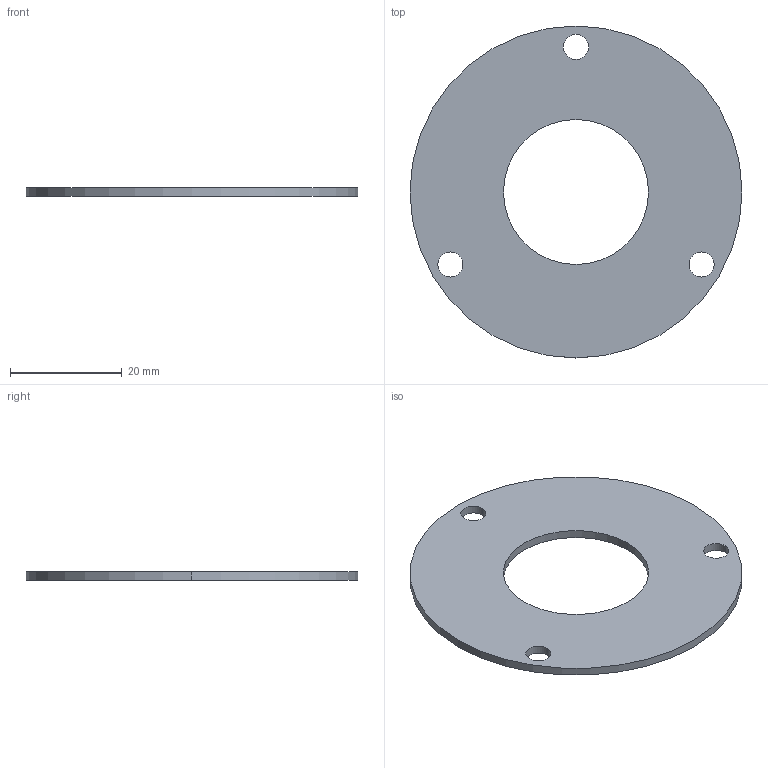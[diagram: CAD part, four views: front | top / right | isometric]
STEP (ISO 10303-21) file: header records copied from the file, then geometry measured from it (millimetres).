
FILE_DESCRIPTION (( 'STEP AP214' ), '1' );
FILE_NAME ('Reibscheibe 0008.STEP', '2025-03-25T12:50:11', ( '' ), ( '' ), 'SwSTEP 2.0', 'SolidWorks 2022', '' );
FILE_SCHEMA (( 'AUTOMOTIVE_DESIGN' ));
Length unit declared in the file: millimetre
Products named in the file (1): Reibscheibe 0008
Bounding box: 59.5 x 59.5 x 1.5 mm (x, y, z)
Volume: 3302.8 mm3; surface area: 4870.3 mm2
Topology: 1 solids, 1 shells, 12 faces, 30 edges, 20 vertices
Faces by surface type: cylinder 10, plane 2
Entity records: 424 total; most frequent: DIRECTION 76, CARTESIAN_POINT 63, ORIENTED_EDGE 60, AXIS2_PLACEMENT_3D 33, EDGE_CURVE 30, CIRCLE 20, EDGE_LOOP 20, VERTEX_POINT 20
